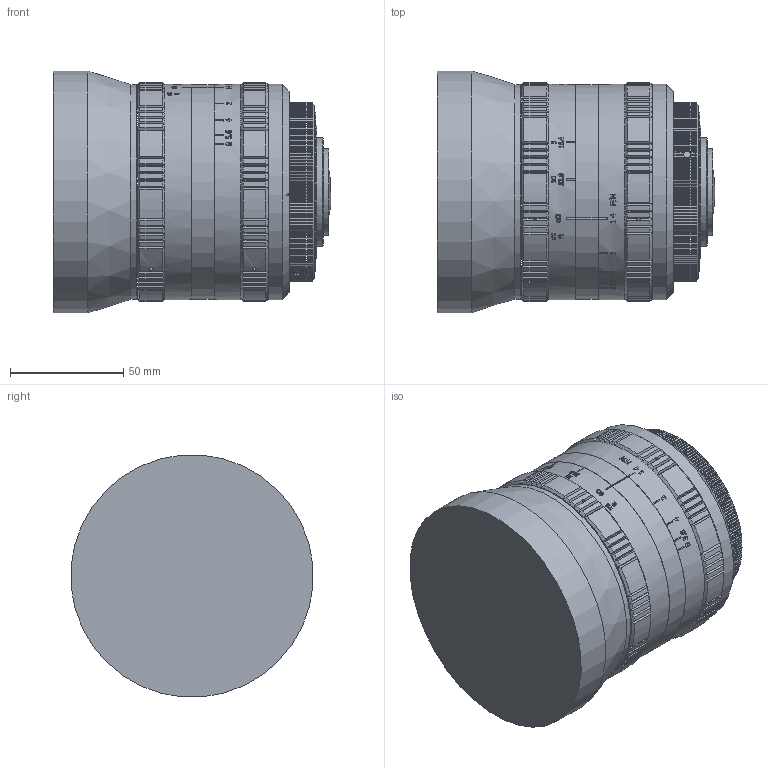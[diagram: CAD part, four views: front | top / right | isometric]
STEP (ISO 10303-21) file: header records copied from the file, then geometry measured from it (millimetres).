
FILE_DESCRIPTION((''),'2;1');
FILE_NAME('\\OPTECSERVER3\Doc Produ\Meccaniche\STP\A_2008\C0809\C0809_000\C0809_001.stp','2014-04-28T11:30:26',('mcilia'),(''),'Autodesk Inventor 2010','Autodesk Inventor 2010','');
FILE_SCHEMA(('AUTOMOTIVE_DESIGN { 1 0 10303 214 1 1 1 1 }'));
Length unit declared in the file: millimetre
Products named in the file (2): C0809_001_000 (Livello di dettaglio sostituto1); C0809_001
Assembly tree (1 placements, depth 2):
  C0809_001_000 (Livello di dettaglio sostituto1)
    C0809_001
Bounding box: 122.42 x 106.67 x 106.67 mm (x, y, z)
Surface area: 128435.5 mm2 (no closed solid volume)
Topology: 0 solids, 29 shells, 964 faces, 3518 edges, 2567 vertices
Faces by surface type: plane 597, cone 227, cylinder 126, bspline 11, sphere 2, torus 1
Full cylindrical faces by diameter (mm): 38 x1, 48 x1, 91 x1, 95 x4, 107 x1
Entity records: 38287 total; most frequent: CARTESIAN_POINT 11567, ORIENTED_EDGE 5215, DIRECTION 4882, EDGE_CURVE 3479, VERTEX_POINT 2554, AXIS2_PLACEMENT_3D 1868, VECTOR 1146, LINE 1146
